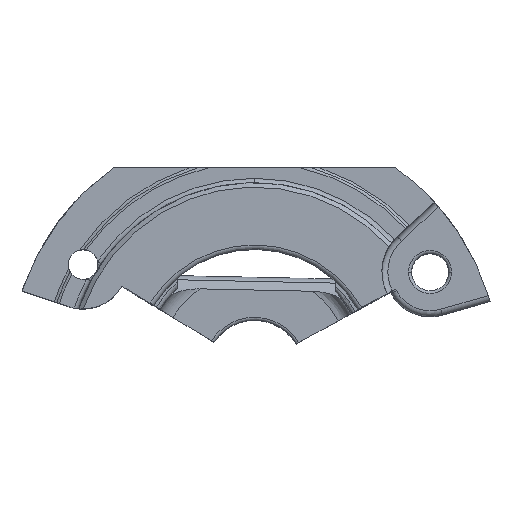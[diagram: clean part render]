
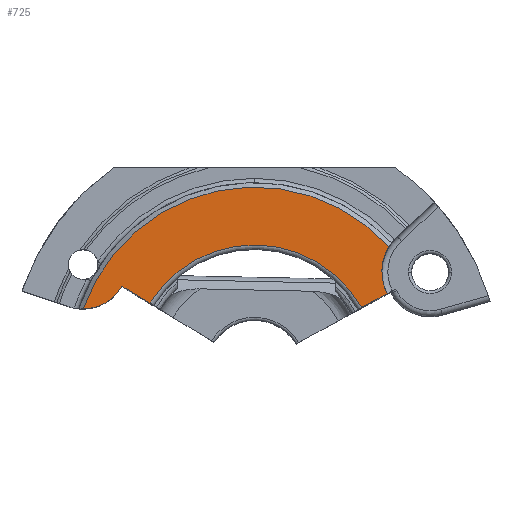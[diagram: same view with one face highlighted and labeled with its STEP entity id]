
A CAD part, top view. The second image highlights one B-rep face of the part: STEP entity #725.
In plain terms, the highlighted planar face has unit normal (0, 0, 1).
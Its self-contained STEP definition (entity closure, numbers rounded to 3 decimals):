
#37 = DIRECTION ( 'NONE',  ( 0., 0., 1. ) ) ;
#132 = DIRECTION ( 'NONE',  ( 0., 0., -1. ) ) ;
#248 = CARTESIAN_POINT ( 'NONE',  ( -8.929, 5.526, 2.2 ) ) ;
#272 = VECTOR ( 'NONE', #1081, 1000. ) ;
#279 = EDGE_CURVE ( 'NONE', #1118, #2308, #3371, .T. ) ;
#430 = DIRECTION ( 'NONE',  ( 1., 0., 0. ) ) ;
#569 = AXIS2_PLACEMENT_3D ( 'NONE', #1560, #4282, #4330 ) ;
#571 = VECTOR ( 'NONE', #3453, 1000. ) ;
#620 = ORIENTED_EDGE ( 'NONE', *, *, #279, .T. ) ;
#710 = EDGE_LOOP ( 'NONE', ( #4561, #4814, #1796, #1663, #2649, #620, #3655 ) ) ;
#725 = ADVANCED_FACE ( 'NONE', ( #4985 ), #3084, .T. ) ;
#819 = LINE ( 'NONE', #3269, #2504 ) ;
#860 = AXIS2_PLACEMENT_3D ( 'NONE', #918, #1696, #978 ) ;
#869 = CARTESIAN_POINT ( 'NONE',  ( -8.981, 5.441, 2.2 ) ) ;
#918 = CARTESIAN_POINT ( 'NONE',  ( -11.546, 6.995, 2.2 ) ) ;
#978 = DIRECTION ( 'NONE',  ( 1., 0., 0. ) ) ;
#983 = LINE ( 'NONE', #1145, #571 ) ;
#1049 = VERTEX_POINT ( 'NONE', #4934 ) ;
#1081 = DIRECTION ( 'NONE',  ( 0.518, 0.855, 0. ) ) ;
#1118 = VERTEX_POINT ( 'NONE', #3477 ) ;
#1136 = EDGE_CURVE ( 'NONE', #4516, #2248, #2373, .T. ) ;
#1145 = CARTESIAN_POINT ( 'NONE',  ( -5.964, -3.163, 2.2 ) ) ;
#1267 = CARTESIAN_POINT ( 'NONE',  ( 0., 0., 2.2 ) ) ;
#1392 = EDGE_CURVE ( 'NONE', #2648, #1118, #819, .T. ) ;
#1560 = CARTESIAN_POINT ( 'NONE',  ( 0., 0., 2.2 ) ) ;
#1663 = ORIENTED_EDGE ( 'NONE', *, *, #4687, .T. ) ;
#1696 = DIRECTION ( 'NONE',  ( 0., 0., 1. ) ) ;
#1796 = ORIENTED_EDGE ( 'NONE', *, *, #2487, .T. ) ;
#2035 = LINE ( 'NONE', #3462, #272 ) ;
#2150 = DIRECTION ( 'NONE',  ( 0.855, -0.518, 0. ) ) ;
#2248 = VERTEX_POINT ( 'NONE', #4763 ) ;
#2308 = VERTEX_POINT ( 'NONE', #2859 ) ;
#2373 = CIRCLE ( 'NONE', #569, 12.2 ) ;
#2389 = AXIS2_PLACEMENT_3D ( 'NONE', #1267, #132, #4317 ) ;
#2487 = EDGE_CURVE ( 'NONE', #2248, #4205, #4604, .T. ) ;
#2504 = VECTOR ( 'NONE', #2150, 1000. ) ;
#2648 = VERTEX_POINT ( 'NONE', #248 ) ;
#2649 = ORIENTED_EDGE ( 'NONE', *, *, #1392, .T. ) ;
#2859 = CARTESIAN_POINT ( 'NONE',  ( 7.225, 4.085, 2.2 ) ) ;
#2939 = EDGE_CURVE ( 'NONE', #1049, #2308, #983, .T. ) ;
#3084 = PLANE ( 'NONE',  #3184 ) ;
#3184 = AXIS2_PLACEMENT_3D ( 'NONE', #4642, #37, #430 ) ;
#3269 = CARTESIAN_POINT ( 'NONE',  ( 0.002, 0.115, 2.2 ) ) ;
#3278 = CARTESIAN_POINT ( 'NONE',  ( 11.831, 6.502, 2.2 ) ) ;
#3371 = CIRCLE ( 'NONE', #2389, 8.3 ) ;
#3453 = DIRECTION ( 'NONE',  ( -0.876, -0.482, 0. ) ) ;
#3462 = CARTESIAN_POINT ( 'NONE',  ( -8.929, 5.526, 2.2 ) ) ;
#3477 = CARTESIAN_POINT ( 'NONE',  ( -7.047, 4.386, 2.2 ) ) ;
#3655 = ORIENTED_EDGE ( 'NONE', *, *, #2939, .F. ) ;
#4062 = CARTESIAN_POINT ( 'NONE',  ( 9.049, 8.182, 2.2 ) ) ;
#4205 = VERTEX_POINT ( 'NONE', #869 ) ;
#4282 = DIRECTION ( 'NONE',  ( 0., 0., 1. ) ) ;
#4317 = DIRECTION ( 'NONE',  ( 1., 0., 0. ) ) ;
#4330 = DIRECTION ( 'NONE',  ( 1., 0., 0. ) ) ;
#4452 = DIRECTION ( 'NONE',  ( 0., 0., -1. ) ) ;
#4513 = AXIS2_PLACEMENT_3D ( 'NONE', #3278, #4452, #4751 ) ;
#4516 = VERTEX_POINT ( 'NONE', #4062 ) ;
#4521 = EDGE_CURVE ( 'NONE', #1049, #4516, #4894, .T. ) ;
#4561 = ORIENTED_EDGE ( 'NONE', *, *, #4521, .T. ) ;
#4604 = CIRCLE ( 'NONE', #860, 3. ) ;
#4642 = CARTESIAN_POINT ( 'NONE',  ( -11.546, 6.995, 2.2 ) ) ;
#4687 = EDGE_CURVE ( 'NONE', #4205, #2648, #2035, .T. ) ;
#4751 = DIRECTION ( 'NONE',  ( 1., 0., 0. ) ) ;
#4763 = CARTESIAN_POINT ( 'NONE',  ( -11.527, 3.995, 2.2 ) ) ;
#4814 = ORIENTED_EDGE ( 'NONE', *, *, #1136, .T. ) ;
#4894 = CIRCLE ( 'NONE', #4513, 3.25 ) ;
#4934 = CARTESIAN_POINT ( 'NONE',  ( 8.936, 5.025, 2.2 ) ) ;
#4985 = FACE_OUTER_BOUND ( 'NONE', #710, .T. ) ;
